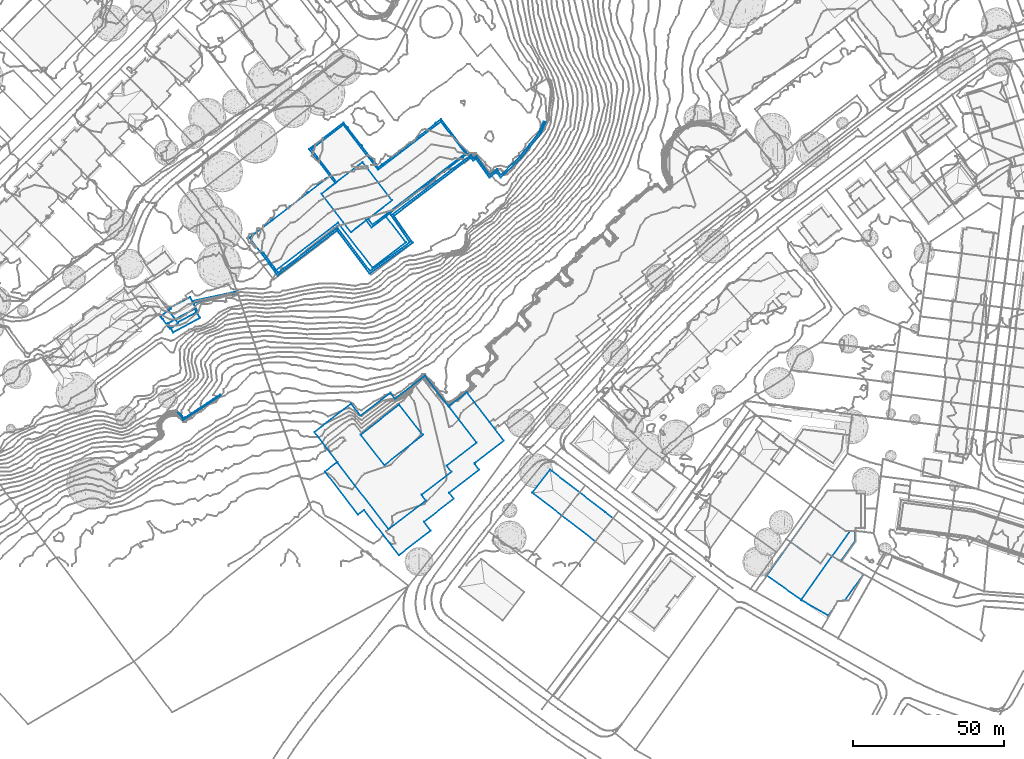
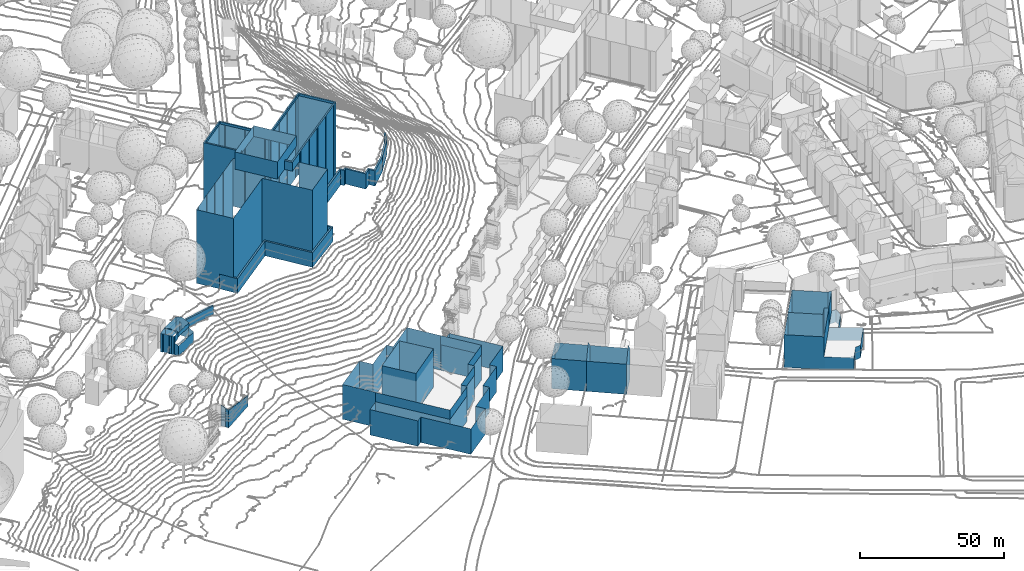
# Not in any storey, part 30 of 494: 13 walls.
"""IFC2X3 model written with IfcOpenShell, lengths in metres."""

from ifc_helpers import new_model, si_unit, frame, origin_with_axes, place, context, subcontext, project, faceted_brep, element, save


model = new_model("IFC2X3")

# Units and contexts
model_context = context("Model", 3, precision=1e-05, world=origin_with_axes())
body_context = subcontext(model_context, "Body", "Model", "MODEL_VIEW")
ifc_project = project(units=[si_unit("AREAUNIT", "SQUARE_METRE"), si_unit("LENGTHUNIT", "METRE")], contexts=[model_context])

# Walls
wall_1_placement = place(None, frame((207.679732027, 107.243916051, 526.7712), z_axis=(0.0, 0.0, 1.0), x_axis=(1.0, 0.0, 0.0)))
element("IfcWall", 1, at=wall_1_placement, Name="Wall 0", context=body_context, shape_type="Brep", body=[
    faceted_brep([(26.550999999, 20.4101999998, 31.203), (26.487999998, 20.4922000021, 31.203), (26.550999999, 20.4101999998, 0.0), (25.4849999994, 19.5899000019, 31.203), (25.4849999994, 19.5899000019, 0.0), (25.4219999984, 19.6719000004, 31.203), (25.4219999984, 19.6719000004, 0.0), (25.0810000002, 19.4101999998, 31.203), (25.0810000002, 19.4101999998, 0.0), (25.1440000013, 19.3282000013, 31.203), (25.1440000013, 19.3282000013, 0.0), (19.5390000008, 15.0196000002, 31.203), (19.5390000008, 15.0196000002, 0.0), (19.4769999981, 15.0997000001, 31.203), (19.4769999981, 15.0997000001, 0.0), (19.1359999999, 14.8379000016, 31.203), (19.1359999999, 14.8379000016, 0.0), (19.1979999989, 14.7578000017, 31.203), (19.1979999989, 14.7578000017, 0.0), (13.5839999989, 10.4415000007, 31.203), (13.5839999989, 10.4415000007, 0.0), (13.5229999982, 10.5206000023, 31.203), (13.5229999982, 10.5206000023, 0.0), (13.1909999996, 10.264700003, 31.203), (13.1909999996, 10.264700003, 0.0), (13.2509999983, 10.1856000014, 31.203), (13.2509999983, 10.1856000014, 0.0), (7.6369999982, 5.871100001, 31.203), (7.6369999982, 5.871100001, 0.0), (7.5779999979, 5.9483000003, 31.203), (7.5779999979, 5.9483000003, 0.0), (7.2289999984, 5.6788000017, 31.203), (7.2289999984, 5.6788000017, 0.0), (7.2879999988, 5.6026000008, 31.203), (7.2879999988, 5.6026000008, 0.0), (1.6979999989, 1.3047000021, 31.203), (1.6979999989, 1.3047000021, 0.0), (1.6400000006, 1.379900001, 31.203), (1.6400000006, 1.379900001, 0.0), (1.2989999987, 1.1182000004, 31.203), (1.2989999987, 1.1182000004, 0.0), (1.3570000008, 1.0430000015, 31.203), (1.3570000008, 1.0430000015, 0.0), (0.0, 0.0, 31.203), (0.0, 0.0, 0.0), (8.4690000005, -11.0126999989, 31.2029), (8.4690000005, -11.0125999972, -0.0001), (29.2599999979, 4.9786000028, 31.2029), (29.2599999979, 4.9786000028, -0.0001), (26.5260000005, 20.5206000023, 31.203), (26.487999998, 20.4922000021, 0.0), (61.7960000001, 37.9942000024, 34.8936), (63.3579999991, 39.193400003, 34.8936), (61.7960000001, 37.9942000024, -0.0001), (61.7639999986, 38.0362000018, 34.8936), (61.7639999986, 38.0362000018, -0.0001), (61.4230000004, 37.7735000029, 34.8936), (61.4230000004, 37.7735000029, -0.0001), (61.4549999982, 37.7314999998, 34.8936), (61.4549999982, 37.7314999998, -0.0001), (55.8610000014, 33.433600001, 34.8936), (55.8610000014, 33.433600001, -0.0001), (55.8299999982, 33.4737000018, 34.8936), (55.8299999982, 33.4737000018, -0.0001), (55.4890000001, 33.2110000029, 34.8936), (55.4890000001, 33.2110000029, -0.0001), (55.5199999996, 33.1709000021, 34.8936), (55.5199999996, 33.1709000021, -0.0001), (49.9210000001, 28.8692000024, 34.8936), (49.9210000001, 28.8692000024, -0.0001), (49.8920000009, 28.9053000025, 34.8936), (49.8920000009, 28.9053000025, -0.0001), (49.550999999, 28.6436000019, 34.8936), (49.550999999, 28.6436000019, -0.0001), (49.5799999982, 28.6064999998, 34.8936), (49.5799999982, 28.6064999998, -0.0001), (43.9780000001, 24.3008000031, 34.8936), (43.9780000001, 24.3008000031, -0.0001), (43.9499999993, 24.3370000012, 34.8936), (43.9499999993, 24.3370000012, -0.0001), (43.6169999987, 24.0811000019, 34.8936), (43.6169999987, 24.0811000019, -0.0001), (43.6449999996, 24.0450000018, 34.8936), (43.6449999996, 24.0450000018, -0.0001), (42.5669999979, 23.2168000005, 34.8936), (42.5669999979, 23.2168000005, -0.0001), (41.75, 24.2774000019, 34.8936), (41.75, 24.2774000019, -0.0001), (41.8269999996, 24.3370000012, 34.8936), (41.8269999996, 24.3370000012, -0.0001), (41.5639999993, 24.6788000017, 34.8936), (41.5639999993, 24.6788000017, -0.0001), (41.4869999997, 24.6192000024, 34.8936), (41.4869999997, 24.6192000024, -0.0001), (37.1710000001, 30.2159000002, 34.8936), (37.1710000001, 30.2159000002, 0.0), (37.256000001, 30.2803000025, 34.8936), (37.256000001, 30.2803000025, 0.0), (36.9930000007, 30.6231000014, 34.8936), (36.9930000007, 30.6231000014, 0.0), (36.9079999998, 30.5567000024, 34.8936), (36.9079999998, 30.5567000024, 0.0), (32.5859999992, 36.1631000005, 34.8936), (32.5859999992, 36.1631000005, 0.0), (32.6779999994, 36.2334000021, 34.8936), (32.6779999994, 36.2334000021, 0.0), (32.4160000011, 36.5752000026, 34.8936), (32.4160000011, 36.5752000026, 0.0), (32.3229999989, 36.5030000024, 34.8936), (32.3229999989, 36.5030000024, 0.0), (31.1119999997, 38.0743000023, 34.8936), (31.1119999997, 38.0743000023, 0.0), (19.7520000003, 29.3311000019, 34.8936), (19.7520000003, 29.3311000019, 0.0), (40.4290000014, 3.3858000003, 34.8936), (38.6160000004, 5.7432000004, 34.8936), (40.4290000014, 3.3858000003, 31.2029), (45.379999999, 7.192400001, 34.8936), (45.1660000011, 7.0274000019, 31.2029), (45.379999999, 7.192400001, -0.0001), (45.3289999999, 7.2588, 34.8936), (45.3289999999, 7.2588, -0.0001), (46.3999999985, 8.0821000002, 34.8936), (46.3999999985, 8.0821000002, -0.0001), (46.4499999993, 8.0157000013, 34.8936), (46.4499999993, 8.0157000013, -0.0001), (46.7910000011, 8.2774000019, 34.8936), (46.7910000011, 8.2774000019, -0.0001), (46.7410000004, 8.3438000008, 34.8936), (46.7410000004, 8.3438000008, -0.0001), (52.379999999, 12.6748000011, 34.8936), (52.379999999, 12.6749000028, -0.0001), (52.4279999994, 12.6123000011, 34.8936), (52.4279999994, 12.6123000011, -0.0001), (52.7609999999, 12.8692000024, 34.8936), (52.7609999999, 12.8692000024, -0.0001), (52.7129999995, 12.9317000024, 34.8936), (52.7129999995, 12.9317000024, -0.0001), (58.3169999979, 17.2344000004, 34.8936), (58.3169999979, 17.2344000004, -0.0001), (58.3619999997, 17.1758000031, 34.8936), (58.3619999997, 17.1758000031, -0.0001), (58.7029999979, 17.4375, 34.8936), (58.7029999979, 17.4375, -0.0001), (58.6579999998, 17.496100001, 34.8936), (58.6579999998, 17.496100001, -0.0001), (64.2589999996, 21.7950000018, 34.8936), (64.2589999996, 21.7950000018, -0.0001), (64.3000000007, 21.7422000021, 34.8936), (64.3000000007, 21.7422000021, -0.0001), (64.6409999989, 22.0040000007, 34.8936), (64.6409999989, 22.0039000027, -0.0001), (64.6000000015, 22.0567000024, 34.8936), (64.6000000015, 22.0567000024, -0.0001), (70.1600000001, 26.327200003, 34.8936), (70.1600000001, 26.327200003, -0.0001), (70.1979999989, 26.2774000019, 34.8936), (70.1979999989, 26.2774000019, -0.0001), (70.5579999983, 26.5547000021, 34.8936), (70.5579999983, 26.5547000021, -0.0001), (70.5199999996, 26.6036000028, 34.8936), (70.5199999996, 26.6036000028, -0.0001), (72.0789999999, 27.8008000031, 34.8936), (72.0789999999, 27.8008000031, -0.0001), (63.3579999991, 39.193400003, -0.0001), (28.4019999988, 18.0821000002, 34.8936), (28.4019999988, 18.0821000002, 31.203), (26.5260000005, 20.5206000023, 0.0), (20.5119999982, 29.2872000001, 34.8936), (28.8579999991, 18.4317000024, 34.8936), (20.5119999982, 29.2872000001, 33.9067), (31.0529999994, 37.3925999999, 34.8936), (31.0529999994, 37.3925999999, 33.9067), (42.5370000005, 22.4581000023, 34.8936), (42.5370000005, 22.4581000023, 33.9067), (63.3079999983, 38.4307000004, 34.8936), (63.3079999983, 38.4307000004, 33.9067), (71.3779999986, 27.9375, 34.8936), (71.3779999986, 27.9375, 33.9067), (40.6779999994, 4.3300999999, 34.8936), (40.6779999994, 4.3300999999, 33.9067), (39.2280000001, 6.2159000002, 34.8936), (39.2280000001, 6.2159000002, 33.9067), (51.7039999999, -1.4736000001, 31.2029), (40.7190000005, -9.9217999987, 31.2029), (51.7039999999, -1.4736000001, -0.0001), (37.4360000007, 25.0274000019, 38.4993), (47.1919999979, 12.3399000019, 38.4992), (37.4360000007, 25.0274000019, 33.9067), (23.7820000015, 14.5263999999, 38.4993), (23.7820000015, 14.5263999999, 31.203), (28.8579999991, 18.4317000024, 33.9067), (33.5379999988, 1.8399000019, 38.4992), (33.5379999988, 1.8399000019, 31.2029), (47.1919999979, 12.3399000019, 33.9067), (38.6160000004, 5.7432000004, 31.2029), (40.7190000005, -9.9217999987, -0.0001), (45.1660000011, 7.0274000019, -0.0001)], [[[0, 1, 2]], [[3, 0, 4]], [[5, 3, 6]], [[7, 5, 8]], [[9, 7, 10]], [[11, 9, 12]], [[13, 11, 14]], [[15, 14, 16]], [[17, 16, 18]], [[19, 17, 20]], [[21, 19, 22]], [[23, 21, 24]], [[25, 23, 26]], [[27, 25, 28]], [[29, 27, 30]], [[31, 29, 32]], [[33, 31, 34]], [[35, 33, 36]], [[37, 35, 38]], [[39, 37, 40]], [[41, 39, 42]], [[43, 41, 44]], [[45, 43, 46]], [[47, 45, 48]], [[1, 49, 50]], [[51, 52, 53]], [[54, 51, 55]], [[56, 54, 57]], [[58, 56, 59]], [[60, 58, 61]], [[62, 60, 63]], [[64, 62, 65]], [[66, 64, 67]], [[68, 66, 69]], [[70, 68, 71]], [[72, 70, 73]], [[74, 72, 75]], [[76, 74, 77]], [[78, 76, 79]], [[80, 78, 81]], [[82, 80, 83]], [[84, 82, 85]], [[86, 84, 87]], [[88, 86, 89]], [[90, 88, 91]], [[92, 90, 93]], [[94, 92, 95]], [[96, 94, 97]], [[98, 96, 99]], [[100, 98, 101]], [[102, 100, 103]], [[104, 102, 105]], [[106, 104, 107]], [[108, 106, 109]], [[110, 108, 111]], [[112, 110, 113]], [[114, 115, 116]], [[117, 118, 119]], [[118, 117, 114]], [[116, 118, 114]], [[120, 117, 121]], [[122, 120, 123]], [[124, 122, 125]], [[126, 124, 127]], [[128, 126, 129]], [[130, 128, 131]], [[132, 130, 133]], [[134, 132, 135]], [[136, 134, 137]], [[138, 136, 139]], [[140, 138, 141]], [[142, 140, 143]], [[144, 142, 145]], [[146, 144, 147]], [[148, 146, 149]], [[150, 148, 151]], [[152, 150, 153]], [[154, 152, 155]], [[156, 154, 157]], [[158, 156, 159]], [[160, 158, 161]], [[162, 160, 163]], [[52, 162, 164]], [[165, 49, 166]], [[49, 165, 112]], [[49, 113, 167]], [[113, 49, 112]], [[168, 169, 170]], [[171, 168, 172]], [[173, 171, 174]], [[175, 173, 176]], [[177, 175, 178]], [[179, 177, 180]], [[181, 179, 182]], [[183, 184, 185]], [[186, 187, 188]], [[189, 165, 190]], [[165, 189, 169]], [[166, 190, 165]], [[169, 186, 188]], [[186, 169, 189]], [[188, 191, 169]], [[192, 189, 193]], [[187, 181, 194]], [[181, 187, 192]], [[182, 194, 181]], [[115, 192, 193]], [[192, 115, 181]], [[195, 115, 193]], [[184, 47, 196]], [[118, 183, 197]], [[1, 50, 2]], [[0, 2, 4]], [[3, 4, 6]], [[5, 6, 8]], [[7, 8, 10]], [[9, 10, 12]], [[11, 12, 14]], [[13, 14, 15]], [[15, 16, 17]], [[17, 18, 20]], [[19, 20, 22]], [[21, 22, 24]], [[23, 24, 26]], [[25, 26, 28]], [[27, 28, 30]], [[29, 30, 32]], [[31, 32, 34]], [[33, 34, 36]], [[35, 36, 38]], [[37, 38, 40]], [[39, 40, 42]], [[41, 42, 44]], [[43, 44, 46]], [[45, 46, 48]], [[49, 167, 50]], [[52, 164, 53]], [[51, 53, 55]], [[54, 55, 57]], [[56, 57, 59]], [[58, 59, 61]], [[60, 61, 63]], [[62, 63, 65]], [[64, 65, 67]], [[66, 67, 69]], [[68, 69, 71]], [[70, 71, 73]], [[72, 73, 75]], [[74, 75, 77]], [[76, 77, 79]], [[78, 79, 81]], [[80, 81, 83]], [[82, 83, 85]], [[84, 85, 87]], [[86, 87, 89]], [[88, 89, 91]], [[90, 91, 93]], [[92, 93, 95]], [[94, 95, 97]], [[96, 97, 99]], [[98, 99, 101]], [[100, 101, 103]], [[102, 103, 105]], [[104, 105, 107]], [[106, 107, 109]], [[108, 109, 111]], [[110, 111, 113]], [[115, 195, 116]], [[118, 197, 119]], [[117, 119, 121]], [[120, 121, 123]], [[122, 123, 125]], [[124, 125, 127]], [[126, 127, 129]], [[128, 129, 131]], [[130, 131, 133]], [[132, 133, 135]], [[134, 135, 137]], [[136, 137, 139]], [[138, 139, 141]], [[140, 141, 143]], [[142, 143, 145]], [[144, 145, 147]], [[146, 147, 149]], [[148, 149, 151]], [[150, 151, 153]], [[152, 153, 155]], [[154, 155, 157]], [[156, 157, 159]], [[158, 159, 161]], [[160, 161, 163]], [[162, 163, 164]], [[169, 191, 170]], [[168, 170, 172]], [[171, 172, 174]], [[173, 174, 176]], [[175, 176, 178]], [[177, 178, 180]], [[179, 180, 182]], [[184, 196, 185]], [[187, 194, 188]], [[189, 190, 193]], [[47, 48, 196]], [[183, 185, 197]]]),
])
wall_2_placement = place(None, frame((211.8297320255, 101.9383160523, 526.7541), z_axis=(0.0, 0.0, 1.0), x_axis=(1.0, 0.0, 0.0)))
element("IfcWall", 2, at=wall_2_placement, Name="Wall 0", context=body_context, shape_type="Brep", body=[
    faceted_brep([(68.9820000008, 31.8183000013, 6.5044), (43.5920000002, 12.5654000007, 6.2064), (68.9820000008, 31.8183000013, 0.0), (42.7239999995, 12.7030999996, 6.2064), (69.0769999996, 32.6875, 0.0), (42.7239999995, 12.7030999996, 0.0), (5.2149999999, -7.1689999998, 6.2064), (0.0, 0.0, 6.2065), (5.2149999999, -7.1689999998, 0.0), (24.8300000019, 7.7958999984, 6.2064), (24.8300000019, 7.7958999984, 0.0), (35.5850000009, -6.5419999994, 6.2064), (35.5850000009, -6.5419999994, 0.0), (49.7470000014, 3.6680000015, 6.2064), (49.7470000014, 3.6680000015, 0.0), (43.5920000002, 12.5654000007, 0.0), (48.870000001, 3.8192999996, 6.2064), (48.870000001, 3.8192999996, 0.0), (35.7190000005, -5.6611000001, 6.2064), (35.7190000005, -5.6611000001, 0.0), (24.9539999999, 8.6893999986, 6.2064), (24.9539999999, 8.6893999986, 0.0), (5.3460000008, -6.2685999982, 6.2064), (5.3460000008, -6.2685999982, 0.0), (0.5140000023, 0.3740000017, 6.2065), (0.5140000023, 0.3740000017, 0.0), (0.0, 0.0, 0.0), (69.8550000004, 30.7969000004, 6.5044), (69.8550000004, 30.7969000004, 0.0), (70.7380000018, 31.3691000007, 6.5044), (70.7380000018, 31.3691000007, 0.0), (75.2160000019, 25.1708999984, 6.5044), (75.2160000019, 25.1708999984, 0.0), (77.5540000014, 27.0381000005, 6.5044), (77.5540000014, 27.0381000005, 0.0), (78.9220000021, 25.1425999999, 6.5044), (78.9220000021, 25.1425999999, 0.0), (85.6270000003, 31.621100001, 6.5044), (85.6270000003, 31.621100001, 0.0), (92.2200000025, 39.9149999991, 6.5044), (92.2200000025, 39.9149999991, 0.0), (93.6900000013, 43.4589999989, 6.5044), (93.6900000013, 43.4589999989, 0.0), (93.1030000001, 43.7021000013, 6.5044), (93.1030000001, 43.7021000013, 0.0), (91.6669999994, 40.2412, 6.5044), (91.6669999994, 40.2412, 0.0), (85.1559999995, 32.0498000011, 6.5044), (85.1559999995, 32.0498000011, 0.0), (79.0080000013, 26.1094000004, 6.5044), (79.0080000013, 26.1094000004, 0.0), (77.6790000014, 27.9521000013, 6.5044), (77.6790000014, 27.9521000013, 0.0), (75.3410000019, 26.0830000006, 6.5044), (75.3410000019, 26.0830000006, 0.0), (70.8990000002, 32.2324000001, 6.5044), (70.8990000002, 32.2324000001, 0.0), (69.9759999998, 31.6328000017, 6.5044), (69.9759999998, 31.6328000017, 0.0), (69.0769999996, 32.6875, 6.5044)], [[[0, 1, 2]], [[3, 4, 5]], [[6, 7, 8]], [[9, 6, 10]], [[11, 9, 12]], [[13, 11, 14]], [[1, 13, 15]], [[16, 3, 17]], [[18, 16, 19]], [[20, 18, 21]], [[22, 20, 23]], [[24, 22, 25]], [[7, 24, 26]], [[27, 0, 28]], [[29, 27, 30]], [[31, 29, 32]], [[33, 31, 34]], [[35, 33, 36]], [[37, 35, 38]], [[39, 37, 40]], [[41, 39, 42]], [[43, 41, 44]], [[45, 43, 46]], [[47, 45, 48]], [[49, 47, 50]], [[51, 49, 52]], [[53, 51, 54]], [[55, 53, 56]], [[57, 55, 58]], [[59, 57, 4]], [[1, 15, 2]], [[59, 4, 3]], [[7, 26, 8]], [[6, 8, 10]], [[9, 10, 12]], [[11, 12, 14]], [[13, 14, 15]], [[3, 5, 17]], [[16, 17, 19]], [[18, 19, 21]], [[20, 21, 23]], [[22, 23, 25]], [[24, 25, 26]], [[0, 2, 28]], [[27, 28, 30]], [[29, 30, 32]], [[31, 32, 34]], [[33, 34, 36]], [[35, 36, 38]], [[37, 38, 40]], [[39, 40, 42]], [[41, 42, 44]], [[43, 44, 46]], [[45, 46, 48]], [[47, 48, 50]], [[49, 50, 52]], [[51, 52, 54]], [[53, 54, 56]], [[55, 56, 58]], [[57, 58, 4]]]),
])
wall_3_placement = place(None, frame((211.8297320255, 101.9383160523, 526.7541), z_axis=(0.0, 0.0, 1.0), x_axis=(1.0, 0.0, 0.0)))
element("IfcWall", 3, at=wall_3_placement, Name="Wall 2", context=body_context, shape_type="Brep", body=[
    faceted_brep([(-7.8469999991, -13.1435999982, 3.0268), (-22.8649999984, -16.3652999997, -0.6119), (-7.8469999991, -13.1435999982, -0.6119), (-7.9979999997, -12.4395000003, 3.0268), (-7.9979999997, -12.4395000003, -0.6119), (-23.0159999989, -15.6611999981, 3.1258), (-23.0159999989, -15.6611000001, -0.6119), (-22.8649999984, -16.3652999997, 3.1258)], [[[0, 1, 2]], [[3, 0, 4]], [[5, 3, 6]], [[7, 5, 1]], [[7, 1, 0]], [[0, 2, 4]], [[3, 4, 6]], [[5, 6, 1]]]),
])
wall_4_placement = place(None, frame((211.8297320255, 101.9383160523, 526.7541), z_axis=(0.0, 0.0, 1.0), x_axis=(1.0, 0.0, 0.0)))
element("IfcWall", 4, at=wall_4_placement, Name="Wall 3", context=body_context, shape_type="Brep", body=[
    faceted_brep([(-26.0409999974, -54.9580000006, -9.6341), (-13.8379999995, -46.5898999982, -12.6568), (-26.0409999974, -54.9580000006, -17.0634), (-13.6510000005, -46.8759999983, -17.0634), (-13.6510000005, -46.8759999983, -12.6568), (-13.8379999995, -46.5898999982, -17.0634)], [[[0, 1, 2]], [[3, 4, 0]], [[0, 2, 3]], [[1, 4, 5]], [[1, 5, 2]], [[4, 3, 5]]]),
])
wall_5_placement = place(None, frame((211.8297320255, 101.9383160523, 526.7541), z_axis=(0.0, 0.0, 1.0), x_axis=(1.0, 0.0, 0.0)))
element("IfcWall", 5, at=wall_5_placement, Name="Wall 4", context=body_context, shape_type="Brep", body=[
    faceted_brep([(-13.8379999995, -46.5898999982, -17.0634), (-13.8379999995, -46.5898999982, -12.6568), (-26.0409999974, -54.9580000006, -9.6341), (-26.0409999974, -54.9580000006, -17.0634), (-25.9169999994, -54.4677999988, -9.6341), (-25.9169999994, -54.4677999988, -17.0634), (-26.367999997, -53.6319000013, -9.2021), (-26.367999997, -53.6319000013, -17.0634), (-26.6359999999, -53.8544999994, -17.0634), (-26.6359999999, -53.8544999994, -9.2021), (-27.7089999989, -52.5527999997, -17.0633), (-27.7089999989, -52.5527999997, -8.0502)], [[[0, 1, 2]], [[2, 3, 0]], [[4, 1, 5]], [[6, 4, 7]], [[2, 8, 3]], [[9, 10, 8]], [[11, 6, 10]], [[1, 0, 5]], [[4, 5, 7]], [[9, 8, 2]], [[11, 10, 9]], [[6, 7, 10]]]),
])
wall_6_placement = place(None, frame((386.5667320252, 6.5633160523, 499.0235), z_axis=(0.0, 0.0, 1.0), x_axis=(1.0, 0.0, 0.0)))
element("IfcWall", 6, at=wall_6_placement, Name="Wall 0", context=body_context, shape_type="Brep", body=[
    faceted_brep([(16.8920000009, -6.3027999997, 5.3905), (16.7939999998, -6.4395000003, 5.3905), (16.8920000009, -6.3027999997, 0.0), (16.6450000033, -6.1513999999, 5.3905), (16.6450000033, -6.1513999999, 0.0), (21.2810000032, 0.3359000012, 5.3905), (21.2810000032, 0.3359000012, 0.0), (21.393000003, 3.6981999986, 5.3905), (21.393000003, 3.6981999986, 0.0), (7.8980000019, 11.0351000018, 0.0), (7.8980000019, 11.0351000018, 13.8347), (15.012000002, 5.9472000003, 0.0), (18.1740000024, 3.6854999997, 13.8347), (18.1740000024, 3.6854999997, 0.0), (0.0, 0.0, 13.8347), (0.0, 0.0, 0.0), (9.9030000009, -7.0859999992, 5.3905), (9.9030000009, -7.0859999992, 13.8347), (9.9030000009, -7.0859999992, 0.0), (7.1210000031, -5.0947000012, 0.0), (12.2230000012, -3.8456999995, 13.8347), (12.2230000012, -3.8456999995, 0.0), (19.6400000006, 3.6933000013, 13.8347), (13.6840000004, -4.6748000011, 13.8347), (19.6400000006, 3.691399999, 5.3905), (16.7939999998, -6.4395000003, 0.0), (13.6840000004, -4.6748000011, 5.3905)], [[[0, 1, 2]], [[3, 0, 4]], [[5, 3, 6]], [[7, 5, 8]], [[9, 10, 11]], [[11, 12, 13]], [[14, 10, 15]], [[16, 17, 14]], [[18, 16, 19]], [[19, 14, 15]], [[14, 19, 16]], [[20, 16, 21]], [[16, 18, 21]], [[22, 23, 24]], [[13, 24, 8]], [[12, 24, 13]], [[7, 8, 24]], [[25, 1, 21]], [[26, 20, 21]], [[20, 26, 23]], [[26, 21, 1]], [[1, 25, 2]], [[0, 2, 4]], [[3, 4, 6]], [[5, 6, 8]], [[10, 12, 11]], [[10, 9, 15]], [[17, 16, 20]], [[23, 26, 24]], [[22, 24, 12]]]),
])
wall_7_placement = place(None, frame((378.6967320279, -4.4298839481, 499.0235), z_axis=(0.0, 0.0, 1.0), x_axis=(1.0, 0.0, 0.0)))
element("IfcWall", 7, at=wall_7_placement, Name="Wall 0", context=body_context, shape_type="Brep", body=[
    faceted_brep([(17.7729999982, 3.9072000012, 13.8347), (20.0929999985, 7.1475000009, 5.3905), (17.7729999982, 3.9072000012, 0.0), (0.0, 0.0, 13.8347), (7.8699999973, 10.9932000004, 13.8347), (0.0, 0.0, 0.0), (21.5539999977, 6.3183999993, 13.8347), (11.3049999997, -8.0790999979, 13.8347), (21.5539999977, 6.3183999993, 5.3905), (20.3409999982, -13.2430999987, 5.3904), (11.6140000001, -8.3007999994, 5.3905), (20.3409999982, -13.2430999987, 0.0), (22.2249999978, -10.6083999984, 5.3904), (22.2249999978, -10.6083999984, 0.0), (23.425999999, -8.5088, 5.3905), (23.425999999, -8.5088, 0.0), (24.1999999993, -8.4648000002, 5.3905), (24.1999999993, -8.4648000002, 0.0), (25.7539999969, -8.3183000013, 5.3904), (25.7539999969, -8.3183000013, 0.0), (31.9169999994, 0.3066999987, 5.3905), (31.9169999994, 0.3066999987, 0.0), (29.0299999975, 2.0751999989, 5.3905), (29.0299999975, 2.0751999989, 0.0), (7.8699999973, 10.9932000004, 0.0), (20.0929999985, 7.1475000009, 0.0), (21.5539999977, 6.3183999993, 0.0), (11.6140000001, -8.3007999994, 0.0), (11.3049999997, -8.0790999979, 5.3905), (11.3049999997, -8.0790999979, 0.0), (7.1319999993, -5.0986000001, 0.0), (20.0929999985, 7.1475000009, 13.8347)], [[[0, 1, 2]], [[3, 4, 5]], [[6, 7, 8]], [[9, 10, 11]], [[12, 9, 13]], [[14, 12, 15]], [[16, 14, 17]], [[18, 16, 19]], [[20, 18, 21]], [[22, 20, 23]], [[4, 2, 24]], [[2, 4, 0]], [[1, 6, 8]], [[25, 1, 26]], [[22, 23, 8]], [[27, 28, 29]], [[7, 30, 28]], [[28, 30, 29]], [[3, 30, 7]], [[31, 1, 0]], [[1, 25, 2]], [[4, 24, 5]], [[7, 28, 8]], [[10, 27, 11]], [[9, 11, 13]], [[12, 13, 15]], [[14, 15, 17]], [[16, 17, 19]], [[18, 19, 21]], [[20, 21, 23]], [[31, 6, 1]], [[1, 8, 26]], [[23, 26, 8]], [[10, 28, 27]], [[5, 30, 3]]]),
])
wall_8_placement = place(None, frame((310.929732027, 15.368916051, 513.3392), z_axis=(0.0, 0.0, 1.0), x_axis=(1.0, 0.0, 0.0)))
element("IfcWall", 8, at=wall_8_placement, Name="Wall 0", context=body_context, shape_type="Brep", body=[
    faceted_brep([(13.9970000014, -4.753899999, 4.7545), (11.0769999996, -8.5653999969, 0.0), (13.9970000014, -4.753899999, -12.7678), (0.0, 0.0, 0.0), (2.9210000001, 3.8106000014, -12.7677), (0.0, 0.0001000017, -12.7677), (11.0769999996, -8.5653999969, -12.7678), (5.8610000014, 7.6456000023, 0.005), (8.629999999, 5.505900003, 0.004), (5.8610000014, 7.6456000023, -12.7677), (10.8709999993, 3.7735000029, -12.7678), (14.2729999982, 1.1446000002, -12.7678), (11.3969999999, 3.3672000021, 0.003), (14.1689999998, 1.2247000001, 0.002), (16.938000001, -0.9149999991, 0.0), (16.938000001, -0.9149999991, -12.7678), (2.9210000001, 3.8106000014, 4.7546)], [[[0, 1, 2]], [[3, 4, 5]], [[1, 3, 6]], [[7, 8, 9]], [[10, 9, 8]], [[11, 12, 13]], [[13, 14, 11]], [[11, 10, 12]], [[11, 14, 15]], [[16, 9, 4]], [[9, 16, 7]], [[2, 14, 0]], [[2, 15, 14]], [[1, 6, 2]], [[16, 4, 3]], [[3, 5, 6]], [[8, 12, 10]]]),
])
wall_9_placement = place(None, frame((301.1767320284, 22.9119160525, 500.5715), z_axis=(0.0, 0.0, 1.0), x_axis=(1.0, 0.0, 0.0)))
element("IfcWall", 9, at=wall_9_placement, Name="Wall 0", context=body_context, shape_type="Brep", body=[
    faceted_brep([(12.6739999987, -3.7324000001, 17.5223), (9.7529999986, -7.5430000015, 12.7677), (12.6739999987, -3.7324000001, 0.0), (0.0, 0.0, 12.7677), (9.7529999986, -7.5430000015, 0.0), (5.8659999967, 7.5850000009, 12.7677), (0.0, 0.0, 0.0), (5.8659999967, 7.5850000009, 0.0), (15.6140000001, 0.1026000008, 0.0), (5.9049999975, 7.5546999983, 12.8157), (15.6140000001, 0.1026000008, 12.7677)], [[[0, 1, 2]], [[1, 3, 4]], [[3, 5, 6]], [[5, 7, 6]], [[8, 9, 10]], [[8, 7, 9]], [[10, 2, 8]], [[1, 4, 2]], [[3, 6, 4]], [[5, 9, 7]], [[0, 2, 10]]]),
])
wall_10_placement = place(None, frame((178.2397320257, 81.0750160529, 523.9414), z_axis=(0.0, 0.0, 1.0), x_axis=(1.0, 0.0, 0.0)))
element("IfcWall", 10, at=wall_10_placement, Name="Wall 0", context=body_context, shape_type="Brep", body=[
    faceted_brep([(0.2149999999, 0.1563000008, 7.7243), (0.1559999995, 0.2373000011, 7.7243), (0.2149999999, 0.1563000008, 0.0), (0.0, 0.0, 7.7243), (0.0, 0.0, 0.0), (0.4739999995, -0.629900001, 7.7243), (0.4739999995, -0.629900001, 0.0), (0.8220000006, -0.7118999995, 7.7243), (0.8220000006, -0.7118999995, 0.0), (1.9979999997, -2.3300999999, 7.7243), (1.9979999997, -2.3300999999, 0.0), (1.9710000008, -2.6182000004, 7.7243), (1.9710000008, -2.6182000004, 0.0), (2.4609999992, -3.2695000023, 7.7243), (2.4609999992, -3.2695000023, 0.0), (2.6180000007, -3.1552999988, 7.7243), (2.6180000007, -3.1552999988, 0.0), (3.125, -3.8524999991, 7.7243), (3.125, -3.8524999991, 0.0), (5.881000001, -2.0283000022, 7.7243), (3.5240000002, -3.8027000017, 7.7243), (5.881000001, -2.0283000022, 4.9915), (12.3430000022, 1.7558999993, 6.8724), (12.0439999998, 1.5938000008, 5.1155), (12.3430000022, 1.7558999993, 0.434), (5.7330000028, -1.8330000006, 6.8724), (12.0439999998, 1.5938000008, 0.434), (5.7330000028, -1.8330000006, 5.1155), (3.4539999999, 2.7236000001, 7.4013), (3.2140000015, 3.0429999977, 7.2073), (3.4539999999, 2.7236000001, 0.434), (2.7190000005, 2.1699000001, 7.7243), (3.1909999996, 1.5429999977, 7.7243), (2.7190000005, 2.1699000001, 7.4013), (2.7190000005, 2.1699000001, 0.0), (2.7190000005, 2.1699000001, 0.434), (4.9600000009, -0.8066000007, 0.434), (4.9600000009, -0.8066000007, 0.0), (13.0890000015, -0.3300999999, 3.9956), (4.2340000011, -5.1387000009, 3.9956), (13.0890000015, -0.3300999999, -0.227), (4.6810000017, -0.4345999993, 7.7243), (11.438000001, 2.7109000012, -0.227), (11.438000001, 2.7109000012, 0.434), (2.5390000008, -2.120099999, -0.227), (2.5390000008, -2.120099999, 0.0), (3.3790000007, -3.6669999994, -0.227), (3.3790000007, -3.6669999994, 0.0), (4.2340000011, -5.1387000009, -0.227), (3.5240000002, -3.8027000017, 4.7696), (3.432, -3.6279000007, 7.7243), (3.432, -3.6279000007, -0.227), (0.1559999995, 0.2373000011, 0.0), (3.3880000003, 3.1338, 7.2043), (3.2140000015, 3.0429999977, 0.434), (9.8520000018, 6.5137000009, 7.2473), (9.8520000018, 6.5137000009, 0.434), (3.9979999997, 0.4706999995, 8.2762), (10.9450000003, 4.4257999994, 8.2532), (10.9720000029, 4.375, 8.2762), (11.006000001, 4.3095999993, 8.2402), (10.9400000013, 4.4354999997, 8.2482), (10.9700000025, 4.378899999, 0.434), (10.9450000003, 4.4257999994, 0.434)], [[[0, 1, 2]], [[3, 0, 4]], [[5, 3, 6]], [[7, 5, 8]], [[9, 7, 10]], [[11, 9, 12]], [[13, 11, 14]], [[15, 13, 16]], [[17, 15, 18]], [[19, 20, 21]], [[22, 23, 24]], [[23, 22, 25]], [[24, 23, 26]], [[27, 23, 25]], [[28, 29, 30]], [[31, 32, 33]], [[34, 35, 36]], [[36, 37, 34]], [[38, 39, 40]], [[25, 41, 19]], [[25, 21, 27]], [[21, 25, 19]], [[42, 43, 26]], [[23, 38, 26]], [[26, 40, 42]], [[44, 45, 37]], [[37, 43, 42]], [[43, 37, 36]], [[37, 42, 44]], [[46, 47, 45]], [[45, 44, 46]], [[48, 39, 49]], [[49, 50, 51]], [[50, 49, 20]], [[49, 51, 48]], [[1, 31, 33]], [[35, 1, 33]], [[1, 35, 52]], [[30, 35, 33]], [[35, 34, 52]], [[30, 33, 28]], [[53, 54, 29]], [[53, 55, 56]], [[53, 56, 54]], [[41, 57, 32]], [[50, 17, 51]], [[51, 17, 47]], [[18, 47, 17]], [[47, 46, 51]], [[58, 59, 60]], [[58, 60, 61]], [[55, 61, 56]], [[56, 61, 60]], [[60, 22, 56]], [[22, 24, 62]], [[63, 56, 22]], [[62, 63, 22]], [[1, 52, 2]], [[0, 2, 4]], [[3, 4, 6]], [[5, 6, 8]], [[7, 8, 10]], [[9, 10, 12]], [[11, 12, 14]], [[13, 14, 16]], [[15, 16, 18]], [[20, 49, 21]], [[29, 54, 30]], [[39, 48, 40]], [[38, 40, 26]]]),
])
wall_11_placement = place(None, frame((287.111732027, 46.2742160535, 500.3625), z_axis=(0.0, 0.0, 1.0), x_axis=(1.0, 0.0, 0.0)))
element("IfcWall", 11, at=wall_11_placement, Name="Wall 1", context=body_context, shape_type="Brep", body=[
    faceted_brep([(-42.6979999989, 2.1601999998, 14.9756), (-32.8040000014, 9.7626999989, 14.9756), (-42.6979999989, 2.1601999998, 0.2711), (-42.7219999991, 2.1405999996, 14.9756), (-42.7219999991, 2.1405999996, 0.2711), (-45.7670000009, 6.1103999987, 14.9757), (-45.7670000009, 6.1103999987, 0.2711), (-57.9750000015, -3.2422000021, 14.9757), (-57.9750000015, -3.2422000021, 0.2711), (-50.3640000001, -13.1611000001, 14.9756), (-50.3640000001, -13.1611000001, 0.271), (-50.4539999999, -13.2303999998, 14.9756), (-50.4539999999, -13.2303999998, 0.271), (-33.4110000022, -35.375, 14.9756), (-33.4110000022, -35.375, 0.271), (-21.1009999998, -25.9004000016, 14.9756), (-21.1009999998, -25.9004000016, 0.271), (-22.550999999, -24.0175999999, 14.9756), (-22.550999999, -24.0175999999, 0.271), (-12.6649999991, -16.4072000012, 14.9756), (-12.6649999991, -16.4072000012, 0.271), (-14.2050000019, -14.4053000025, 14.9756), (-14.2050000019, -14.4053000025, 0.271), (-4.3040000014, -6.7851000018, 14.9756), (-4.3040000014, -6.7851000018, 0.271), (-13.6860000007, 5.4052999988, 14.9756), (-13.6860000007, 5.4052999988, 0.271), (-13.7170000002, 5.3818999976, 14.9756), (-13.7170000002, 5.3818999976, 0.271), (-21.3920000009, 15.3955000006, 14.9756), (-21.3920000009, 15.3955000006, 0.2711), (-31.2890000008, 7.7841999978, 14.9756), (-31.2890000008, 7.7841999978, 0.2711), (-32.8040000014, 9.7626999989, 0.2711)], [[[0, 1, 2]], [[3, 0, 4]], [[5, 3, 6]], [[7, 5, 8]], [[9, 7, 10]], [[11, 9, 12]], [[13, 11, 14]], [[15, 13, 16]], [[17, 15, 18]], [[19, 17, 20]], [[21, 19, 22]], [[23, 21, 24]], [[25, 23, 26]], [[27, 25, 28]], [[29, 27, 30]], [[31, 29, 32]], [[1, 31, 33]], [[1, 33, 2]], [[0, 2, 4]], [[3, 4, 6]], [[5, 6, 8]], [[7, 8, 10]], [[9, 10, 12]], [[11, 12, 14]], [[13, 14, 16]], [[15, 16, 18]], [[17, 18, 20]], [[19, 20, 22]], [[21, 22, 24]], [[23, 24, 26]], [[25, 26, 28]], [[27, 28, 30]], [[29, 30, 32]], [[31, 32, 33]]]),
])
wall_12_placement = place(None, frame((287.111732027, 46.2742160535, 500.3625), z_axis=(0.0, 0.0, 1.0), x_axis=(1.0, 0.0, 0.0)))
element("IfcWall", 12, at=wall_12_placement, Name="Wall 2", context=body_context, shape_type="Brep", body=[
    faceted_brep([(-34.8139999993, -14.2206999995, 18.1513), (-42.6830000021, -4.2099000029, 18.1513), (-34.8139999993, -14.2206999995, 1.8109), (-22.0850000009, -4.2148000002, 18.1513), (-22.0850000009, -4.2148000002, 1.8109), (-29.9539999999, 5.7969000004, 18.1513), (-29.9539999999, 5.7969000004, 1.8109), (-42.6830000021, -4.2099000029, 1.8109)], [[[0, 1, 2]], [[3, 0, 4]], [[5, 3, 6]], [[1, 5, 7]], [[1, 7, 2]], [[0, 2, 4]], [[3, 4, 6]], [[5, 6, 7]]]),
])
wall_13_placement = place(None, frame((287.111732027, 46.2742160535, 500.3625), z_axis=(0.0, 0.0, 1.0), x_axis=(1.0, 0.0, 0.0)))
element("IfcWall", 13, at=wall_13_placement, Name="Wall 3", context=body_context, shape_type="Brep", body=[
    faceted_brep([(-11.8669999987, -25.3359000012, 11.038), (-21.7740000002, -32.9541000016, 11.038), (-11.8669999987, -25.3359000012, 0.271), (-13.3530000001, -23.3993999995, 11.038), (-13.3530000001, -23.3993999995, 0.271), (-13.3770000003, -23.3603000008, 11.038), (-13.3770000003, -23.3603000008, 0.271), (-3.4820000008, -15.7529000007, 11.038), (-3.4820000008, -15.7529000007, 0.271), (-5.0069999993, -13.7685000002, 11.038), (-5.0069999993, -13.7685000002, 0.271), (-4.9169999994, -13.6992000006, 11.038), (-4.9169999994, -13.6992000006, 0.271), (-5.0399999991, -13.5381000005, 11.038), (-5.0399999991, -13.5381000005, 0.271), (4.6689999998, -6.067400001, 11.038), (4.6689999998, -6.067400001, 0.271), (-7.5949999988, 9.8671999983, 11.038), (-7.5949999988, 9.8671999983, 0.271), (-13.5780000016, 5.2626999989, 11.038), (-13.5780000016, 5.2626999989, 0.271), (-4.3040000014, -6.7851000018, 11.038), (-4.3040000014, -6.7851000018, 0.271), (-14.2050000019, -14.4053000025, 11.038), (-14.2050000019, -14.4053000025, 0.271), (-12.6649999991, -16.4072000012, 11.038), (-12.6649999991, -16.4072000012, 0.271), (-22.550999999, -24.0175999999, 11.038), (-22.550999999, -24.0175999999, 0.271), (-21.1009999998, -25.9004000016, 11.038), (-21.1009999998, -25.9004000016, 0.271), (-33.4110000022, -35.375, 11.038), (-33.4110000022, -35.375, 0.271), (-50.4539999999, -13.2303999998, 11.038), (-50.4539999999, -13.2303999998, 0.271), (-54.4660000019, -16.3104999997, 11.038), (-54.4660000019, -16.3104999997, 0.271), (-43.5249999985, -30.5293000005, 11.038), (-43.5249999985, -30.5293000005, 0.271), (-41.5800000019, -29.0331999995, 11.038), (-41.5800000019, -29.0331999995, 0.271), (-41.5170000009, -29.1152000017, 11.038), (-41.5170000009, -29.1152000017, 0.271), (-41.4739999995, -29.0820000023, 11.038), (-41.4739999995, -29.0820000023, 0.271), (-30.0280000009, -43.9521000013, 11.038), (-30.0280000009, -43.9521000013, 0.271), (-19.5309999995, -35.8729999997, 11.038), (-19.5309999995, -35.8729999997, 0.271), (-21.7740000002, -32.9541000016, 0.271)], [[[0, 1, 2]], [[3, 0, 4]], [[5, 3, 6]], [[7, 5, 8]], [[9, 7, 10]], [[11, 9, 12]], [[13, 11, 14]], [[15, 13, 16]], [[17, 15, 18]], [[19, 17, 20]], [[21, 19, 22]], [[23, 21, 24]], [[25, 23, 26]], [[27, 25, 28]], [[29, 27, 30]], [[31, 29, 32]], [[33, 31, 34]], [[35, 33, 36]], [[37, 35, 38]], [[39, 37, 40]], [[41, 39, 42]], [[43, 41, 44]], [[45, 43, 46]], [[47, 45, 48]], [[1, 47, 49]], [[1, 49, 2]], [[0, 2, 4]], [[3, 4, 6]], [[5, 6, 8]], [[7, 8, 10]], [[9, 10, 12]], [[11, 12, 14]], [[13, 14, 16]], [[15, 16, 18]], [[17, 18, 20]], [[19, 20, 22]], [[21, 22, 24]], [[23, 24, 26]], [[25, 26, 28]], [[27, 28, 30]], [[29, 30, 32]], [[31, 32, 34]], [[33, 34, 36]], [[35, 36, 38]], [[37, 38, 40]], [[39, 40, 42]], [[41, 42, 44]], [[43, 44, 46]], [[45, 46, 48]], [[47, 48, 49]]]),
])

save(model, "model.ifc")
